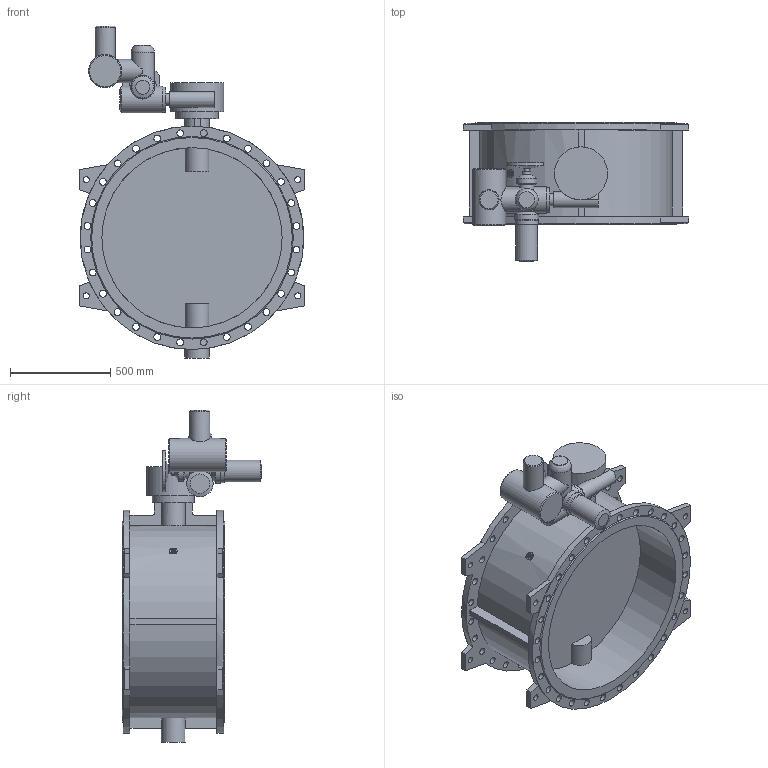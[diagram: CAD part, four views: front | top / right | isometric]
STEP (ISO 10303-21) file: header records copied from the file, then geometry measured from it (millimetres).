
FILE_DESCRIPTION(('STEP AP203'), '1');
FILE_NAME('Çàòâîð 023F.Z DN900 PN10 + ðåäóêòîð + ÌÒ903.À10 ñ ÁÓ', '', ('UNSPECIFIED'), ('UNSPECIFIED'), 'ASCON STEP Converter 1.6', 'ASCON Math Kernel', '');
FILE_SCHEMA(('CONFIG_CONTROL_DESIGN'));
Length unit declared in the file: millimetre
Bounding box: 1126 x 695.5 x 1657 mm (x, y, z)
Volume: 136920175.9 mm3; surface area: 6731113.6 mm2
Topology: 1 solids, 1 shells, 250 faces, 619 edges, 406 vertices
Faces by surface type: cylinder 125, plane 111, cone 13, torus 1
Full cylindrical faces by diameter (mm): 8.5 x4, 12 x4, 18.5 x4, 23 x4, 24 x1, 30 x8, 34 x56, 42 x1, 60 x1, 66 x1, 72 x1, 80 x2, 100 x2, 108 x1, 114 x1, 115 x1, 116 x1, 119 x1, 120 x1, 125 x1, 132 x1, 166 x1, 210 x1, 265 x1, 900 x2, 1115 x2
Entity records: 11602 total; most frequent: CARTESIAN_POINT 3675, DIRECTION 1228, ORIENTED_EDGE 994, EDGE_LOOP 534, AXIS2_PLACEMENT_3D 517, EDGE_CURVE 497, VERTEX_POINT 405, FACE_BOUND 308
